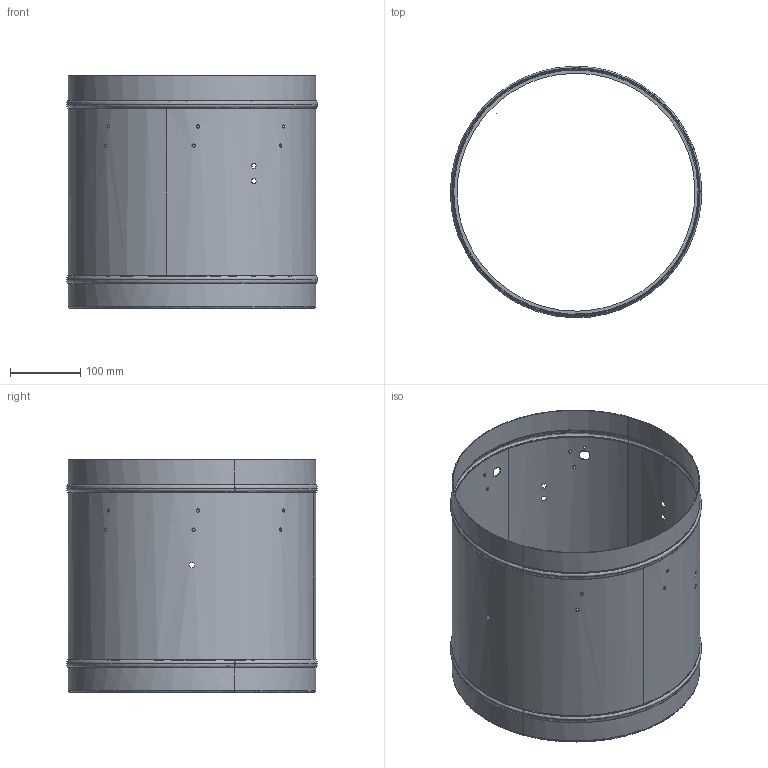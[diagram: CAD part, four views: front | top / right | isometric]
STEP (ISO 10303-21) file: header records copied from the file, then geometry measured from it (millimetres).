
FILE_DESCRIPTION(/* description */ (''),/* implementation_level */ '2;1');
FILE_NAME(/* name */ 'SE-A355Z',/* time_stamp */ '2024-01-18T13:56:53+08:00',/* author */ (''),/* organization */ (''),/* preprocessor_version */ 'ST-DEVELOPER v16.5',/* originating_system */ '',/* authorisation */ '');
FILE_SCHEMA (('CONFIG_CONTROL_DESIGN'));
Length unit declared in the file: millimetre
Products named in the file (2): Document; ADMI2E10FECFBT9H_1_2_85
Assembly tree (1 placements, depth 2):
  Document
    ADMI2E10FECFBT9H_1_2_85
Bounding box: 357 x 356.95 x 330 mm (x, y, z)
Surface area: 746854.4 mm2
Topology: 1 solids, 6 shells, 165 faces, 496 edges, 271 vertices
Faces by surface type: bspline 58, cylinder 54, plane 53
Entity records: 11061 total; most frequent: CARTESIAN_POINT 7939, ORIENTED_EDGE 897, EDGE_CURVE 496, B_SPLINE_CURVE_WITH_KNOTS 330, VERTEX_POINT 271, EDGE_LOOP 217, ADVANCED_FACE 165, FACE_OUTER_BOUND 165
